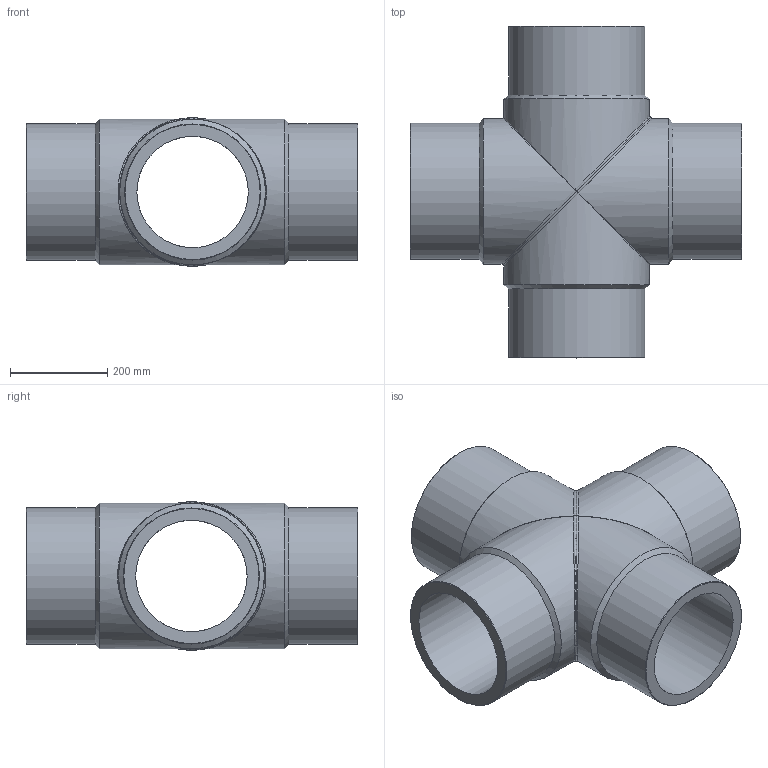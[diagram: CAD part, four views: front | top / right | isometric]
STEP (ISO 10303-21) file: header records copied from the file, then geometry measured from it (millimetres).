
FILE_DESCRIPTION(/* description */ ('Unknown'),/* implementation_level */ '2;1');
FILE_NAME(/* name */ 'CRP280C',/* time_stamp */ '2022-07-07T17:09:16+02:00',/* author */ ('Unknown'),/* organization */ ('Unknown'),/* preprocessor_version */ 'ST-DEVELOPER v18.102',/* originating_system */ 'Solid Edge',/* authorisation */ 'Unknown');
FILE_SCHEMA (('AUTOMOTIVE_DESIGN {1 0 10303 214 3 1 1}'));
Length unit declared in the file: millimetre
Products named in the file (3): CRP280C; CRP280C_mir1
Assembly tree (2 placements, depth 2):
  CRP280C
    CRP280C
    CRP280C_mir1
Bounding box: 682.5 x 682.5 x 304.99 mm (x, y, z)
Volume: 24883312.4 mm3; surface area: 1845397.2 mm2
Topology: 2 solids, 2 shells, 32 faces, 144 edges, 114 vertices
Faces by surface type: cylinder 12, cone 8, plane 6, bspline 6
Full cylindrical faces by diameter (mm): 229.2 x4, 280 x4, 300 x4
Entity records: 4141 total; most frequent: CARTESIAN_POINT 3143, ORIENTED_EDGE 228, DIRECTION 126, EDGE_CURVE 114, VERTEX_POINT 104, B_SPLINE_CURVE_WITH_KNOTS 80, AXIS2_PLACEMENT_3D 63, EDGE_LOOP 58
